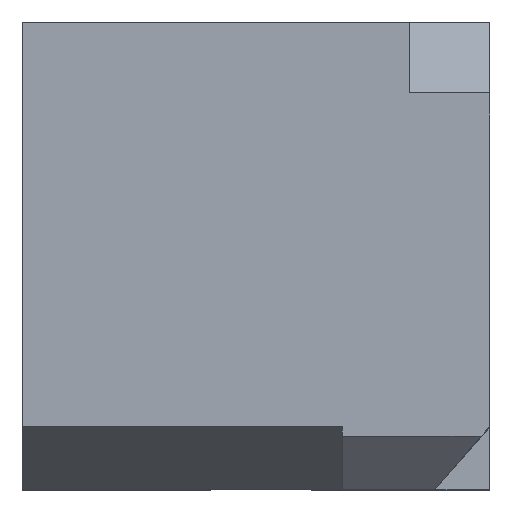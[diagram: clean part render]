
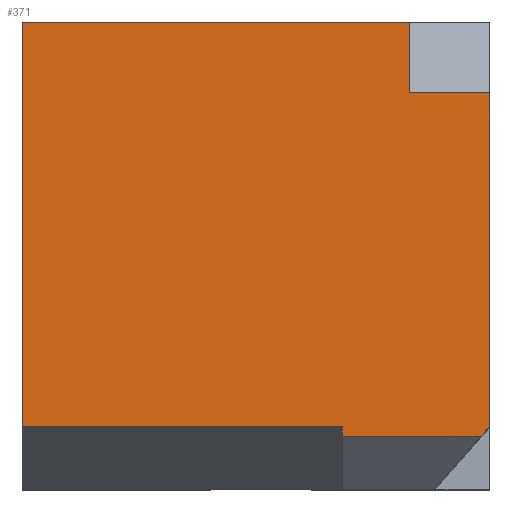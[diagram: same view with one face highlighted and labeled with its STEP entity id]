
A CAD part, top view. The second image highlights one B-rep face of the part: STEP entity #371.
In plain terms, the highlighted planar face has unit normal (0, 0, 1).
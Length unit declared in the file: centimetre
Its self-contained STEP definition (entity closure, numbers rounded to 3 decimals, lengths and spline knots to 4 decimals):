
#1 = CARTESIAN_POINT ( 'NONE',  ( 0., 134.1996, 1000. ) ) ;
#5 = VECTOR ( 'NONE', #89, 100. ) ;
#7 = CARTESIAN_POINT ( 'NONE',  ( 684.8481, 134.1996, 1000. ) ) ;
#22 = CARTESIAN_POINT ( 'NONE',  ( 1000., 134.1996, 1000. ) ) ;
#53 = AXIS2_PLACEMENT_3D ( 'NONE', #552, #403, #730 ) ;
#65 = EDGE_CURVE ( 'NONE', #772, #683, #681, .T. ) ;
#74 = DIRECTION ( 'NONE',  ( -0.658, -0.753, 0. ) ) ;
#83 = ORIENTED_EDGE ( 'NONE', *, *, #65, .F. ) ;
#89 = DIRECTION ( 'NONE',  ( 1., 0., 0. ) ) ;
#96 = LINE ( 'NONE', #559, #357 ) ;
#113 = ORIENTED_EDGE ( 'NONE', *, *, #608, .T. ) ;
#140 = CARTESIAN_POINT ( 'NONE',  ( 828.7026, 848.1808, 1000. ) ) ;
#145 = VERTEX_POINT ( 'NONE', #463 ) ;
#175 = LINE ( 'NONE', #898, #5 ) ;
#178 = LINE ( 'NONE', #506, #762 ) ;
#179 = CARTESIAN_POINT ( 'NONE',  ( 828.7026, 848.1808, 1000. ) ) ;
#196 = EDGE_CURVE ( 'NONE', #145, #787, #796, .T. ) ;
#221 = ORIENTED_EDGE ( 'NONE', *, *, #663, .T. ) ;
#227 = VECTOR ( 'NONE', #890, 100. ) ;
#232 = CARTESIAN_POINT ( 'NONE',  ( 981.7821, 113.3749, 1000. ) ) ;
#237 = LINE ( 'NONE', #650, #1015 ) ;
#238 = PLANE ( 'NONE',  #53 ) ;
#272 = DIRECTION ( 'NONE',  ( 0., 1., 0. ) ) ;
#297 = CARTESIAN_POINT ( 'NONE',  ( 684.8481, 134.1996, 1000. ) ) ;
#302 = ORIENTED_EDGE ( 'NONE', *, *, #563, .F. ) ;
#333 = ORIENTED_EDGE ( 'NONE', *, *, #196, .T. ) ;
#357 = VECTOR ( 'NONE', #74, 100. ) ;
#368 = VERTEX_POINT ( 'NONE', #805 ) ;
#371 = ADVANCED_FACE ( 'NONE', ( #963 ), #238, .T. ) ;
#388 = EDGE_CURVE ( 'NONE', #447, #1034, #96, .T. ) ;
#403 = DIRECTION ( 'NONE',  ( 0., 0., 1. ) ) ;
#410 = DIRECTION ( 'NONE',  ( 0., -1., 0. ) ) ;
#447 = VERTEX_POINT ( 'NONE', #22 ) ;
#463 = CARTESIAN_POINT ( 'NONE',  ( 828.7026, 1000., 1000. ) ) ;
#466 = ORIENTED_EDGE ( 'NONE', *, *, #763, .T. ) ;
#478 = VECTOR ( 'NONE', #502, 100. ) ;
#480 = ORIENTED_EDGE ( 'NONE', *, *, #566, .F. ) ;
#502 = DIRECTION ( 'NONE',  ( 0., 1., 0. ) ) ;
#506 = CARTESIAN_POINT ( 'NONE',  ( 828.7026, 1000., 1000. ) ) ;
#507 = DIRECTION ( 'NONE',  ( 1., 0., 0. ) ) ;
#509 = LINE ( 'NONE', #179, #659 ) ;
#515 = DIRECTION ( 'NONE',  ( 0., -1., 0. ) ) ;
#527 = CARTESIAN_POINT ( 'NONE',  ( 1000., 1000., 1000. ) ) ;
#552 = CARTESIAN_POINT ( 'NONE',  ( 0., 0., 1000. ) ) ;
#559 = CARTESIAN_POINT ( 'NONE',  ( 1000., 134.1996, 1000. ) ) ;
#562 = VECTOR ( 'NONE', #272, 100. ) ;
#563 = EDGE_CURVE ( 'NONE', #1053, #368, #509, .T. ) ;
#566 = EDGE_CURVE ( 'NONE', #683, #776, #707, .T. ) ;
#608 = EDGE_CURVE ( 'NONE', #447, #368, #836, .T. ) ;
#622 = DIRECTION ( 'NONE',  ( -1., 0., 0. ) ) ;
#624 = ORIENTED_EDGE ( 'NONE', *, *, #765, .F. ) ;
#639 = CARTESIAN_POINT ( 'NONE',  ( 0., 1000., 1000. ) ) ;
#650 = CARTESIAN_POINT ( 'NONE',  ( 0., 1000., 1000. ) ) ;
#659 = VECTOR ( 'NONE', #507, 100. ) ;
#663 = EDGE_CURVE ( 'NONE', #787, #776, #237, .T. ) ;
#681 = LINE ( 'NONE', #764, #562 ) ;
#683 = VERTEX_POINT ( 'NONE', #7 ) ;
#707 = LINE ( 'NONE', #297, #926 ) ;
#730 = DIRECTION ( 'NONE',  ( 1., 0., 0. ) ) ;
#762 = VECTOR ( 'NONE', #515, 100. ) ;
#763 = EDGE_CURVE ( 'NONE', #772, #1034, #175, .T. ) ;
#764 = CARTESIAN_POINT ( 'NONE',  ( 684.8481, 0., 1000. ) ) ;
#765 = EDGE_CURVE ( 'NONE', #145, #1053, #178, .T. ) ;
#771 = ORIENTED_EDGE ( 'NONE', *, *, #388, .F. ) ;
#772 = VERTEX_POINT ( 'NONE', #847 ) ;
#776 = VERTEX_POINT ( 'NONE', #1 ) ;
#787 = VERTEX_POINT ( 'NONE', #823 ) ;
#796 = LINE ( 'NONE', #639, #227 ) ;
#805 = CARTESIAN_POINT ( 'NONE',  ( 1000., 848.1808, 1000. ) ) ;
#823 = CARTESIAN_POINT ( 'NONE',  ( 0., 1000., 1000. ) ) ;
#836 = LINE ( 'NONE', #527, #478 ) ;
#845 = EDGE_LOOP ( 'NONE', ( #302, #624, #333, #221, #480, #83, #466, #771, #113 ) ) ;
#847 = CARTESIAN_POINT ( 'NONE',  ( 684.8481, 113.3749, 1000. ) ) ;
#890 = DIRECTION ( 'NONE',  ( -1., 0., 0. ) ) ;
#898 = CARTESIAN_POINT ( 'NONE',  ( 1000., 113.3749, 1000. ) ) ;
#926 = VECTOR ( 'NONE', #622, 100. ) ;
#963 = FACE_OUTER_BOUND ( 'NONE', #845, .T. ) ;
#1015 = VECTOR ( 'NONE', #410, 100. ) ;
#1034 = VERTEX_POINT ( 'NONE', #232 ) ;
#1053 = VERTEX_POINT ( 'NONE', #140 ) ;
